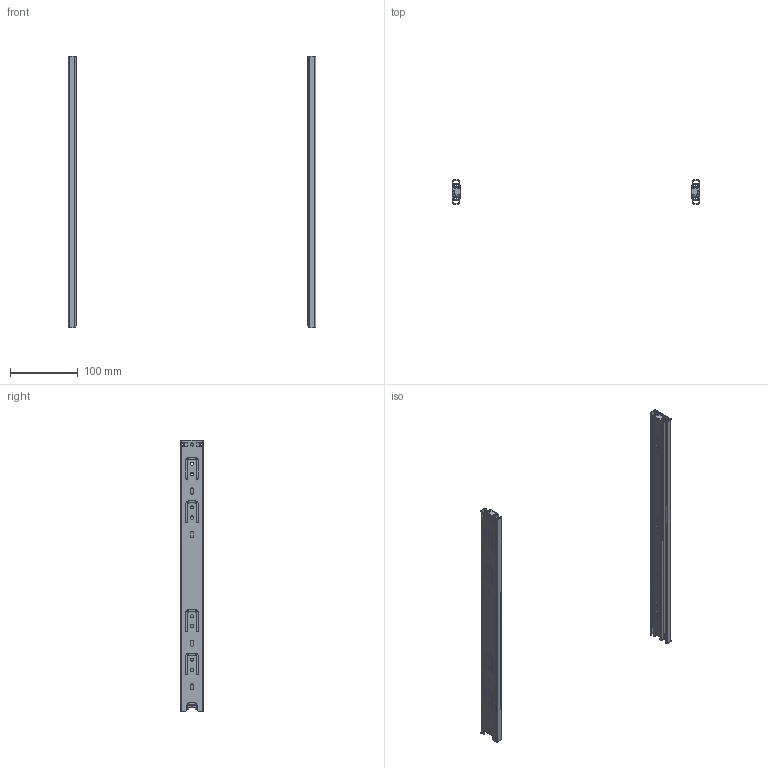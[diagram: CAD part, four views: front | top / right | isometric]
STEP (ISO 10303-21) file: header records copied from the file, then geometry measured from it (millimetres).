
FILE_DESCRIPTION(/* description */ (''),/* implementation_level */ '2;1');
FILE_NAME(/* name */ 'D:\$Workingspace\Designs\Katalog\Cadsoft\GTV Prowadnice\Prowadnice GTV_bryły 3D\PK-0H35-4000.stp',/* time_stamp */ '2016-11-22T11:19:12+01:00',/* author */ ('tomaszw'),/* organization */ (''),/* preprocessor_version */ 'ST-DEVELOPER v16.1',/* originating_system */ 'Autodesk Inventor 2016',/* authorisation */ '');
FILE_SCHEMA (('AUTOMOTIVE_DESIGN { 1 0 10303 214 3 1 1 }'));
Length unit declared in the file: millimetre
Products named in the file (5): PK-0H35_1-400; PK-0H35_2-400; PK-0H35_3-400; Blokada_3; PK-0H35
Assembly tree (8 placements, depth 2):
  PK-0H35
    PK-0H35_1-400  x2
    PK-0H35_2-400  x2
    PK-0H35_3-400  x2
    Blokada_3  x2
Bounding box: 364 x 34.8 x 400 mm (x, y, z)
Volume: 83134.3 mm3; surface area: 201178.5 mm2
Topology: 8 solids, 8 shells, 502 faces, 1458 edges, 972 vertices
Faces by surface type: plane 252, cylinder 250
Full cylindrical faces by diameter (mm): 4.5 x16, 5 x10
Entity records: 8819 total; most frequent: DIRECTION 1486, CARTESIAN_POINT 1484, ORIENTED_EDGE 1432, EDGE_CURVE 716, AXIS2_PLACEMENT_3D 510, VERTEX_POINT 486, LINE 466, VECTOR 466
